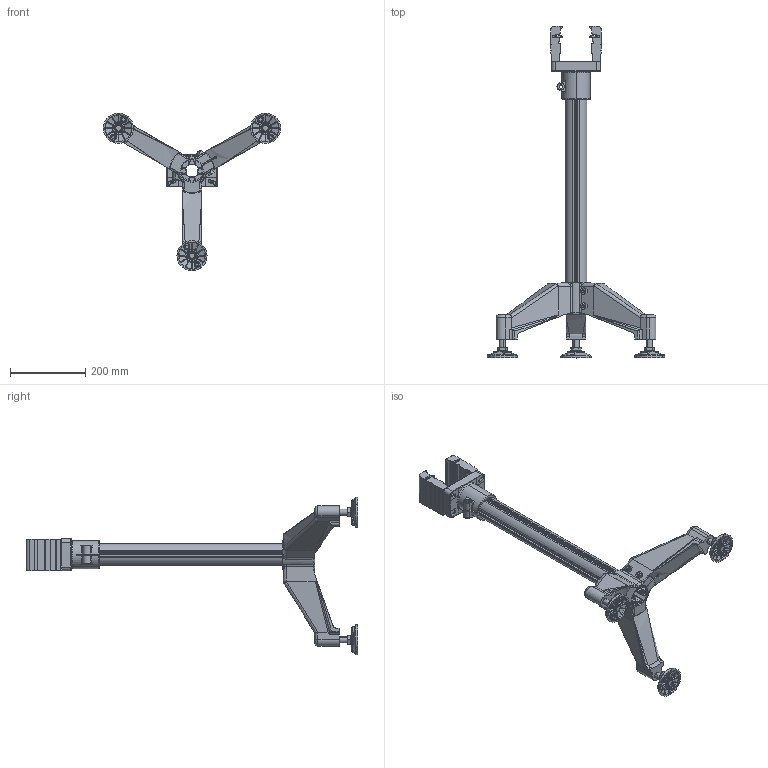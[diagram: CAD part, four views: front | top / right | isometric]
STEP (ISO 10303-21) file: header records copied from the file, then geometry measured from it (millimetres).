
FILE_DESCRIPTION (( 'STEP AP214' ), '1' );
FILE_NAME ('R2-P3.STEP', '2011-04-13T13:35:08', ( '.' ), ( '' ), 'SwSTEP 2.0', 'SolidWorks 2010', '' );
FILE_SCHEMA (( 'AUTOMOTIVE_DESIGN' ));
Length unit declared in the file: millimetre
Products named in the file (9): 331-80; 331-4; Semelle; Tige fileté; 331-3-NU; Écrou M16_Default; TUA-60-4R_0662; R2SL32P_Default<Brut d''usinage>; R2-P3
Assembly tree (11 placements, depth 3):
  R2-P3
    R2SL32P_Default<Brut d''usinage>  x2
    331-80  x3
      Tige fileté
      Écrou M16_Default
      Semelle
    TUA-60-4R_0662
    331-3-NU
    331-4
Bounding box: 470.58 x 880.97 x 418.25 mm (x, y, z)
Volume: 3304739.6 mm3; surface area: 818893.6 mm2
Topology: 16 solids, 16 shells, 1528 faces, 4122 edges, 2628 vertices
Faces by surface type: plane 546, cylinder 410, cone 205, torus 169, bspline 144, sphere 54
Entity records: 37607 total; most frequent: CARTESIAN_POINT 11405, ORIENTED_EDGE 5222, DIRECTION 4745, EDGE_CURVE 2611, AXIS2_PLACEMENT_3D 1778, VERTEX_POINT 1676, VECTOR 1189, LINE 1189
